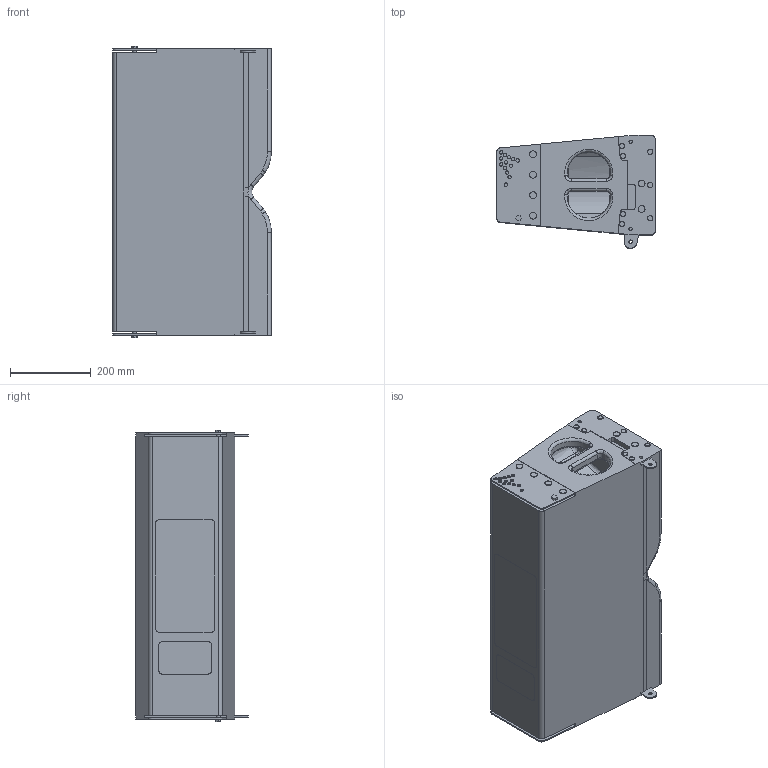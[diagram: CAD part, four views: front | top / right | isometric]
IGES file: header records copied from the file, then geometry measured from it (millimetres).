
Global section: file name: LA28 TOUR BLOCK v2; native system: unknown; preprocessor: unknown; author: unknown; organization: unknown; date: 20230122.005809; units: inch
Bounding box: 393.7 x 279.74 x 723.29 mm (x, y, z)
Volume: 57544172.1 mm3; surface area: 1238034 mm2
Topology: 1 solids, 1 shells, 416 faces, 1078 edges, 724 vertices
Faces by surface type: bspline 416
